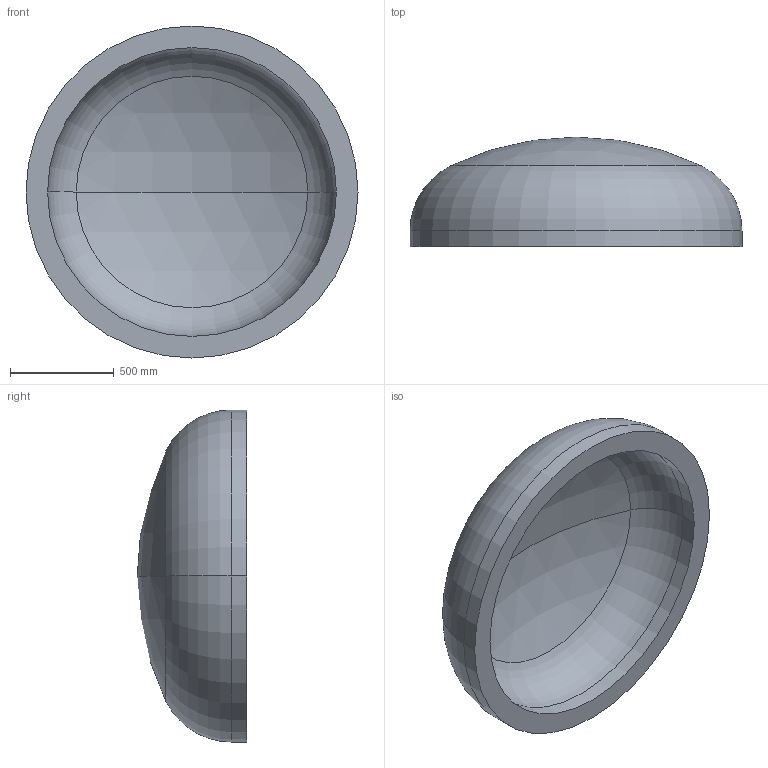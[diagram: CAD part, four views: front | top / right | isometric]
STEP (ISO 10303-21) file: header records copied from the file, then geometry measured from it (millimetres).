
FILE_DESCRIPTION (( 'STEP AP203' ), '1' );
FILE_NAME ('DIN 28013 Korbbogenform_-_Boden DIN 28013 - 1600 x 75 - I - s=104.step', '2016-07-01T11:30:28', ( '' ), ( '' ), 'SwSTEP 2.0', 'SolidWorks 2013', '' );
FILE_SCHEMA (( 'CONFIG_CONTROL_DESIGN' ));
Length unit declared in the file: millimetre
Products named in the file (1): DIN 28013 Korbbogenform_-_Boden DIN 28013 - 1600 x 75 - I - s=104
Bounding box: 1600 x 527.43 x 1600 mm (x, y, z)
Volume: 303010108.8 mm3; surface area: 6338550.6 mm2
Topology: 1 solids, 1 shells, 13 faces, 24 edges, 14 vertices
Faces by surface type: torus 4, cylinder 4, sphere 4, plane 1
Entity records: 407 total; most frequent: DIRECTION 72, CARTESIAN_POINT 52, ORIENTED_EDGE 48, AXIS2_PLACEMENT_3D 34, EDGE_CURVE 24, CIRCLE 20, EDGE_LOOP 14, VERTEX_POINT 14
